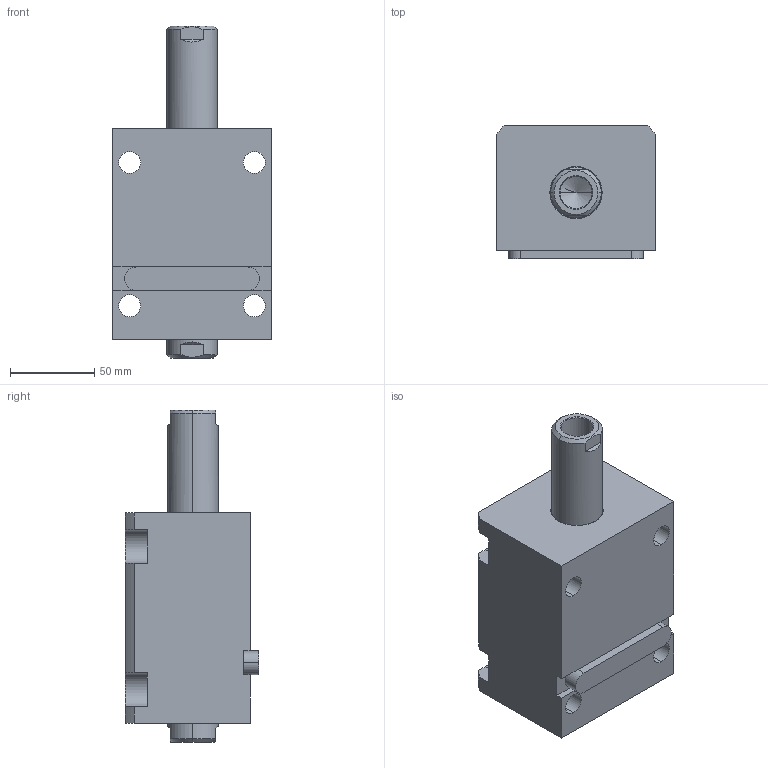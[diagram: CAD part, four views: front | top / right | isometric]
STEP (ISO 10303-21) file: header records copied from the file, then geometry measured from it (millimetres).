
FILE_DESCRIPTION (( 'STEP AP203' ), '1' );
FILE_NAME ('CHTB-LW50-50N.STEP', '2018-05-18T07:49:09', ( '' ), ( '' ), 'SwSTEP 2.0', 'SolidWorks 2015', '' );
FILE_SCHEMA (( 'CONFIG_CONTROL_DESIGN' ));
Length unit declared in the file: millimetre
Products named in the file (4): 掛极LW50-50N; 活塞杆LW50-50N; CHTB-LW50-50N; CHTM-SDMA50QG
Assembly tree (3 placements, depth 2):
  CHTB-LW50-50N
    掛极LW50-50N
    活塞杆LW50-50N
    CHTM-SDMA50QG
Bounding box: 94 x 79 x 197 mm (x, y, z)
Volume: 784326.8 mm3; surface area: 127969.3 mm2
Topology: 3 solids, 3 shells, 221 faces, 588 edges, 385 vertices
Faces by surface type: cylinder 102, plane 58, cone 31, torus 16, bspline 14
Entity records: 11831 total; most frequent: CARTESIAN_POINT 6126, ORIENTED_EDGE 1160, DIRECTION 1056, EDGE_CURVE 580, AXIS2_PLACEMENT_3D 416, VERTEX_POINT 385, EDGE_LOOP 257, VECTOR 224
